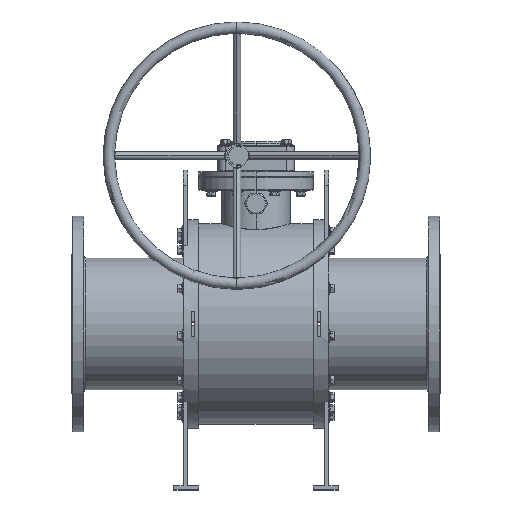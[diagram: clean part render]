
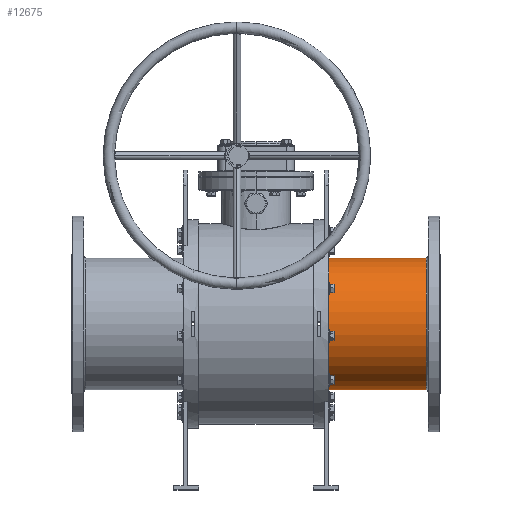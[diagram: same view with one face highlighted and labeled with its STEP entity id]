
A CAD part, top view. The second image highlights one B-rep face of the part: STEP entity #12675.
In plain terms, the highlighted cylindrical face has radius 172.5 mm (diameter 345 mm), a partial arc.
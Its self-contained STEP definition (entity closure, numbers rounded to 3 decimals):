
#1601 = LINE ( 'NONE', #18619, #24957 ) ;
#2575 = CIRCLE ( 'NONE', #27369, 172.5 ) ;
#3630 = AXIS2_PLACEMENT_3D ( 'NONE', #14112, #27276, #6232 ) ;
#4780 = EDGE_CURVE ( 'NONE', #5491, #6220, #2575, .T. ) ;
#4909 = EDGE_CURVE ( 'NONE', #15448, #16866, #21599, .T. ) ;
#5491 = VERTEX_POINT ( 'NONE', #23977 ) ;
#5513 = CARTESIAN_POINT ( 'NONE',  ( 445.5, 0., 0. ) ) ;
#6180 = DIRECTION ( 'NONE',  ( -1., 0., 0. ) ) ;
#6220 = VERTEX_POINT ( 'NONE', #14020 ) ;
#6232 = DIRECTION ( 'NONE',  ( 0., -1., 0. ) ) ;
#8482 = CARTESIAN_POINT ( 'NONE',  ( 445.5, 172.5, 0. ) ) ;
#9498 = DIRECTION ( 'NONE',  ( -1., 0., 0. ) ) ;
#9529 = EDGE_CURVE ( 'NONE', #15448, #6220, #1601, .T. ) ;
#9981 = FACE_OUTER_BOUND ( 'NONE', #11588, .T. ) ;
#10756 = EDGE_CURVE ( 'NONE', #16866, #5491, #13631, .T. ) ;
#11431 = ORIENTED_EDGE ( 'NONE', *, *, #4909, .T. ) ;
#11588 = EDGE_LOOP ( 'NONE', ( #11431, #11804, #20605, #12603 ) ) ;
#11804 = ORIENTED_EDGE ( 'NONE', *, *, #10756, .T. ) ;
#12603 = ORIENTED_EDGE ( 'NONE', *, *, #9529, .F. ) ;
#12675 = ADVANCED_FACE ( 'NONE', ( #9981 ), #18806, .T. ) ;
#13631 = LINE ( 'NONE', #20267, #24681 ) ;
#14020 = CARTESIAN_POINT ( 'NONE',  ( 190., -172.5, 0. ) ) ;
#14112 = CARTESIAN_POINT ( 'NONE',  ( -482.5, 0., 0. ) ) ;
#15448 = VERTEX_POINT ( 'NONE', #17806 ) ;
#16283 = DIRECTION ( 'NONE',  ( 0., 1., 0. ) ) ;
#16866 = VERTEX_POINT ( 'NONE', #8482 ) ;
#17800 = CARTESIAN_POINT ( 'NONE',  ( 190., 0., 0. ) ) ;
#17806 = CARTESIAN_POINT ( 'NONE',  ( 445.5, -172.5, 0. ) ) ;
#18619 = CARTESIAN_POINT ( 'NONE',  ( -482.5, -172.5, 0. ) ) ;
#18806 = CYLINDRICAL_SURFACE ( 'NONE', #3630, 172.5 ) ;
#20267 = CARTESIAN_POINT ( 'NONE',  ( -482.5, 172.5, 0. ) ) ;
#20605 = ORIENTED_EDGE ( 'NONE', *, *, #4780, .T. ) ;
#21599 = CIRCLE ( 'NONE', #22934, 172.5 ) ;
#22934 = AXIS2_PLACEMENT_3D ( 'NONE', #5513, #26977, #16283 ) ;
#23430 = DIRECTION ( 'NONE',  ( 0., 0., -1. ) ) ;
#23977 = CARTESIAN_POINT ( 'NONE',  ( 190., 172.5, 0. ) ) ;
#24681 = VECTOR ( 'NONE', #9498, 1000. ) ;
#24957 = VECTOR ( 'NONE', #6180, 1000. ) ;
#26284 = DIRECTION ( 'NONE',  ( 1., 0., 0. ) ) ;
#26977 = DIRECTION ( 'NONE',  ( -1., 0., 0. ) ) ;
#27276 = DIRECTION ( 'NONE',  ( -1., 0., 0. ) ) ;
#27369 = AXIS2_PLACEMENT_3D ( 'NONE', #17800, #26284, #23430 ) ;
